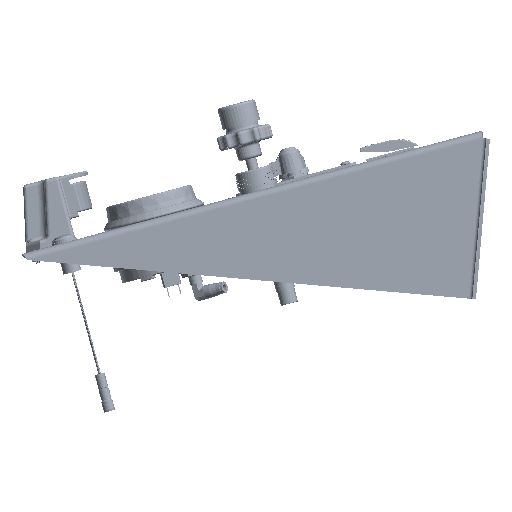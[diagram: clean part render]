
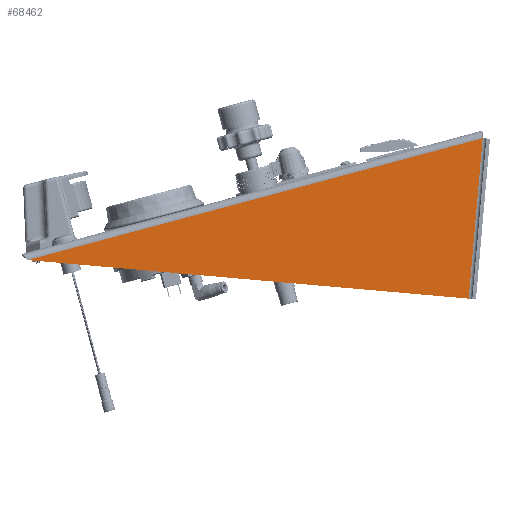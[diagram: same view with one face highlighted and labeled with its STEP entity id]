
A CAD part, left-side view. The second image highlights one B-rep face of the part: STEP entity #68462.
In plain terms, the highlighted planar face has unit normal (-1, 0, 0).
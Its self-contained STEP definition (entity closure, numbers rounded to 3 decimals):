
#467 = AXIS2_PLACEMENT_3D ( 'NONE', #2683, #125997, #20400 ) ;
#2387 = CARTESIAN_POINT ( 'NONE',  ( -187.325, 0.294, -3.366 ) ) ;
#2683 = CARTESIAN_POINT ( 'NONE',  ( -187.325, 398.686, -106.828 ) ) ;
#3659 = EDGE_LOOP ( 'NONE', ( #199949, #119385, #131082 ) ) ;
#6734 = CARTESIAN_POINT ( 'NONE',  ( -187.325, 0., 0. ) ) ;
#13666 = CARTESIAN_POINT ( 'NONE',  ( -187.325, 12.463, -142.458 ) ) ;
#20400 = DIRECTION ( 'NONE',  ( 0., -1., 0. ) ) ;
#46570 = LINE ( 'NONE', #179647, #52103 ) ;
#52103 = VECTOR ( 'NONE', #197371, 1000. ) ;
#55534 = LINE ( 'NONE', #13666, #143780 ) ;
#68462 = ADVANCED_FACE ( 'NONE', ( #228377 ), #213106, .F. ) ;
#69153 = LINE ( 'NONE', #6734, #162925 ) ;
#87888 = EDGE_CURVE ( 'NONE', #175639, #158191, #46570, .T. ) ;
#92722 = CARTESIAN_POINT ( 'NONE',  ( -187.325, 394.615, -109.024 ) ) ;
#94071 = EDGE_CURVE ( 'NONE', #123682, #175639, #69153, .T. ) ;
#119231 = DIRECTION ( 'NONE',  ( 0., -0.996, -0.087 ) ) ;
#119385 = ORIENTED_EDGE ( 'NONE', *, *, #129388, .T. ) ;
#123682 = VERTEX_POINT ( 'NONE', #176233 ) ;
#125997 = DIRECTION ( 'NONE',  ( 1., 0., 0. ) ) ;
#129388 = EDGE_CURVE ( 'NONE', #158191, #123682, #55534, .T. ) ;
#130021 = DIRECTION ( 'NONE',  ( 0., -0.087, 0.996 ) ) ;
#131082 = ORIENTED_EDGE ( 'NONE', *, *, #94071, .T. ) ;
#143780 = VECTOR ( 'NONE', #119231, 1000. ) ;
#158191 = VERTEX_POINT ( 'NONE', #92722 ) ;
#162925 = VECTOR ( 'NONE', #130021, 1000. ) ;
#175639 = VERTEX_POINT ( 'NONE', #2387 ) ;
#176233 = CARTESIAN_POINT ( 'NONE',  ( -187.325, 12.463, -142.458 ) ) ;
#179647 = CARTESIAN_POINT ( 'NONE',  ( -187.325, 397.864, -109.894 ) ) ;
#197371 = DIRECTION ( 'NONE',  ( 0., 0.966, -0.259 ) ) ;
#199949 = ORIENTED_EDGE ( 'NONE', *, *, #87888, .T. ) ;
#213106 = PLANE ( 'NONE',  #467 ) ;
#228377 = FACE_OUTER_BOUND ( 'NONE', #3659, .T. ) ;
